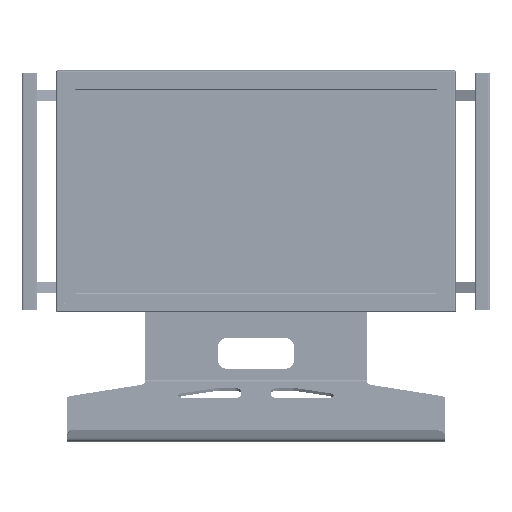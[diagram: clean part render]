
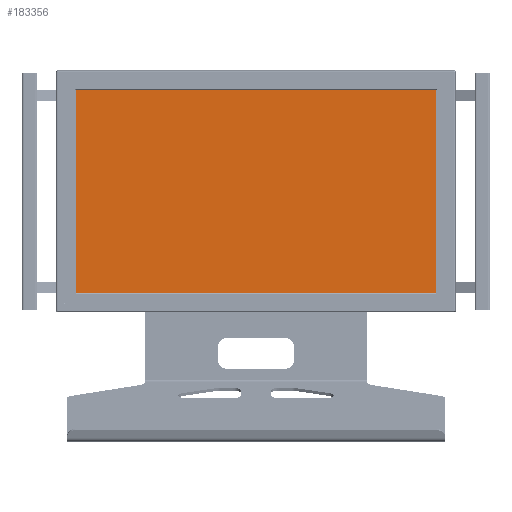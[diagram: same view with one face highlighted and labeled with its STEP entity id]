
A CAD part, top view. The second image highlights one B-rep face of the part: STEP entity #183356.
In plain terms, the highlighted planar face has unit normal (0, 0, 1) as drawn and (0, 1, 0) by its records, which use the part's own axes.
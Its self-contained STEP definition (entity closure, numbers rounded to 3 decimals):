
#6816 = DIRECTION ( 'NONE',  ( 0., 0., -1. ) ) ;
#10522 = VERTEX_POINT ( 'NONE', #184360 ) ;
#24446 = VERTEX_POINT ( 'NONE', #88632 ) ;
#33513 = DIRECTION ( 'NONE',  ( -1., 0., 0. ) ) ;
#37492 = FACE_OUTER_BOUND ( 'NONE', #147540, .T. ) ;
#39470 = PLANE ( 'NONE',  #173798 ) ;
#51873 = LINE ( 'NONE', #97984, #96486 ) ;
#52129 = VECTOR ( 'NONE', #143216, 1000. ) ;
#67098 = DIRECTION ( 'NONE',  ( 1., 0., 0. ) ) ;
#69583 = DIRECTION ( 'NONE',  ( 1., 0., 0. ) ) ;
#71402 = VERTEX_POINT ( 'NONE', #173356 ) ;
#77730 = VERTEX_POINT ( 'NONE', #148826 ) ;
#82489 = VECTOR ( 'NONE', #67098, 1000. ) ;
#88632 = CARTESIAN_POINT ( 'NONE',  ( 238.75, 3.25, 134.3 ) ) ;
#96148 = ORIENTED_EDGE ( 'NONE', *, *, #130790, .F. ) ;
#96486 = VECTOR ( 'NONE', #6816, 1000. ) ;
#97984 = CARTESIAN_POINT ( 'NONE',  ( -238.75, 3.25, 0. ) ) ;
#100146 = CARTESIAN_POINT ( 'NONE',  ( 238.75, 3.25, 0. ) ) ;
#104164 = ORIENTED_EDGE ( 'NONE', *, *, #132580, .F. ) ;
#118563 = EDGE_CURVE ( 'NONE', #71402, #24446, #173160, .T. ) ;
#123924 = VECTOR ( 'NONE', #33513, 1000. ) ;
#126357 = ORIENTED_EDGE ( 'NONE', *, *, #118563, .F. ) ;
#130790 = EDGE_CURVE ( 'NONE', #24446, #77730, #186592, .T. ) ;
#132580 = EDGE_CURVE ( 'NONE', #10522, #71402, #178067, .T. ) ;
#143216 = DIRECTION ( 'NONE',  ( 0., 0., 1. ) ) ;
#144625 = CARTESIAN_POINT ( 'NONE',  ( 0., 3.25, 0. ) ) ;
#147540 = EDGE_LOOP ( 'NONE', ( #126357, #104164, #165207, #96148 ) ) ;
#148826 = CARTESIAN_POINT ( 'NONE',  ( -238.75, 3.25, 134.3 ) ) ;
#153490 = EDGE_CURVE ( 'NONE', #77730, #10522, #51873, .T. ) ;
#165207 = ORIENTED_EDGE ( 'NONE', *, *, #153490, .F. ) ;
#170608 = CARTESIAN_POINT ( 'NONE',  ( 0., 3.25, 134.3 ) ) ;
#173160 = LINE ( 'NONE', #100146, #52129 ) ;
#173356 = CARTESIAN_POINT ( 'NONE',  ( 238.75, 3.25, -134.3 ) ) ;
#173798 = AXIS2_PLACEMENT_3D ( 'NONE', #144625, #190566, #69583 ) ;
#174071 = CARTESIAN_POINT ( 'NONE',  ( 0., 3.25, -134.3 ) ) ;
#178067 = LINE ( 'NONE', #174071, #82489 ) ;
#183356 = ADVANCED_FACE ( 'NONE', ( #37492 ), #39470, .T. ) ;
#184360 = CARTESIAN_POINT ( 'NONE',  ( -238.75, 3.25, -134.3 ) ) ;
#186592 = LINE ( 'NONE', #170608, #123924 ) ;
#190566 = DIRECTION ( 'NONE',  ( 0., 1., 0. ) ) ;
